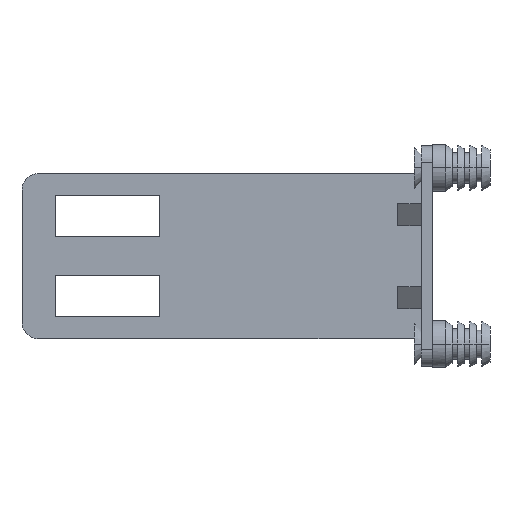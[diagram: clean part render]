
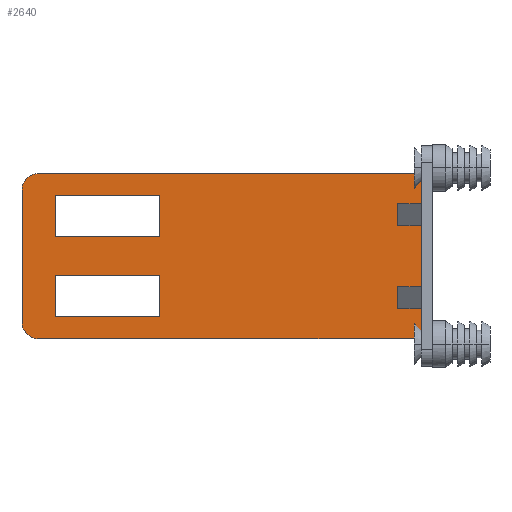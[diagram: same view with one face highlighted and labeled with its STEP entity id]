
A CAD part, top view. The second image highlights one B-rep face of the part: STEP entity #2640.
In plain terms, the highlighted planar face has unit normal (0, 0, 1).
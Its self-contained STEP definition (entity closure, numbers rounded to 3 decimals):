
#28 = EDGE_CURVE ( 'NONE', #2993, #825, #1139, .T. ) ;
#29 = EDGE_CURVE ( 'NONE', #2992, #2993, #1380, .T. ) ;
#30 = EDGE_CURVE ( 'NONE', #803, #2991, #1414, .T. ) ;
#32 = EDGE_CURVE ( 'NONE', #2991, #829, #1413, .T. ) ;
#33 = EDGE_CURVE ( 'NONE', #2990, #2989, #1417, .T. ) ;
#34 = EDGE_CURVE ( 'NONE', #828, #2992, #1411, .T. ) ;
#35 = EDGE_CURVE ( 'NONE', #2989, #39, #1421, .T. ) ;
#36 = EDGE_CURVE ( 'NONE', #40, #833, #1423, .T. ) ;
#39 = VERTEX_POINT ( 'NONE', #3127 ) ;
#40 = VERTEX_POINT ( 'NONE', #3135 ) ;
#96 = CARTESIAN_POINT ( 'NONE',  ( -74.5, 20., -25. ) ) ;
#97 = DIRECTION ( 'NONE',  ( 0., -1., 0. ) ) ;
#302 = FACE_BOUND ( 'NONE', #2933, .T. ) ;
#313 = FACE_BOUND ( 'NONE', #2945, .T. ) ;
#315 = FACE_OUTER_BOUND ( 'NONE', #2946, .T. ) ;
#456 = PLANE ( 'NONE',  #2337 ) ;
#457 = CARTESIAN_POINT ( 'NONE',  ( -74.5, 20., -25. ) ) ;
#458 = DIRECTION ( 'NONE',  ( 0., 0., -1. ) ) ;
#459 = DIRECTION ( 'NONE',  ( -1., 0., 0. ) ) ;
#631 = CARTESIAN_POINT ( 'NONE',  ( -71.5, 12., -25. ) ) ;
#653 = DIRECTION ( 'NONE',  ( 0., 0., 1. ) ) ;
#654 = DIRECTION ( 'NONE',  ( -1., 0., 0. ) ) ;
#655 = CARTESIAN_POINT ( 'NONE',  ( -79.885, 15., -25. ) ) ;
#656 = DIRECTION ( 'NONE',  ( 1., 0., 0. ) ) ;
#682 = CARTESIAN_POINT ( 'NONE',  ( -49.5, 3.5, -25. ) ) ;
#692 = CARTESIAN_POINT ( 'NONE',  ( -68.5, -3.5, -25. ) ) ;
#693 = DIRECTION ( 'NONE',  ( 0., -1., 0. ) ) ;
#694 = CARTESIAN_POINT ( 'NONE',  ( -49.5, -3.5, -25. ) ) ;
#695 = DIRECTION ( 'NONE',  ( 0., 1., 0. ) ) ;
#696 = CARTESIAN_POINT ( 'NONE',  ( -68.5, -11., -25. ) ) ;
#697 = DIRECTION ( 'NONE',  ( 1., 0., 0. ) ) ;
#698 = CARTESIAN_POINT ( 'NONE',  ( -68.5, 11., -25. ) ) ;
#700 = DIRECTION ( 'NONE',  ( 0., 1., 0. ) ) ;
#803 = VERTEX_POINT ( 'NONE', #1567 ) ;
#804 = VERTEX_POINT ( 'NONE', #1568 ) ;
#824 = VERTEX_POINT ( 'NONE', #1588 ) ;
#825 = VERTEX_POINT ( 'NONE', #1589 ) ;
#828 = VERTEX_POINT ( 'NONE', #1592 ) ;
#829 = VERTEX_POINT ( 'NONE', #1593 ) ;
#831 = VERTEX_POINT ( 'NONE', #1595 ) ;
#832 = VERTEX_POINT ( 'NONE', #1596 ) ;
#833 = VERTEX_POINT ( 'NONE', #1597 ) ;
#838 = LINE ( 'NONE', #655, #849 ) ;
#849 = VECTOR ( 'NONE', #656, 1000. ) ;
#853 = CIRCLE ( 'NONE', #981, 3. ) ;
#857 = LINE ( 'NONE', #682, #869 ) ;
#858 = LINE ( 'NONE', #698, #871 ) ;
#862 = LINE ( 'NONE', #692, #863 ) ;
#863 = VECTOR ( 'NONE', #693, 1000. ) ;
#865 = LINE ( 'NONE', #694, #866 ) ;
#866 = VECTOR ( 'NONE', #695, 1000. ) ;
#867 = LINE ( 'NONE', #696, #868 ) ;
#868 = VECTOR ( 'NONE', #697, 1000. ) ;
#869 = VECTOR ( 'NONE', #700, 1000. ) ;
#871 = VECTOR ( 'NONE', #2381, 1000. ) ;
#878 = LINE ( 'NONE', #2390, #879 ) ;
#879 = VECTOR ( 'NONE', #2391, 1000. ) ;
#913 = VECTOR ( 'NONE', #2473, 1000. ) ;
#929 = LINE ( 'NONE', #2472, #913 ) ;
#981 = AXIS2_PLACEMENT_3D ( 'NONE', #631, #653, #654 ) ;
#1139 = LINE ( 'NONE', #3111, #1409 ) ;
#1317 = EDGE_CURVE ( 'NONE', #804, #803, #2271, .T. ) ;
#1380 = LINE ( 'NONE', #3113, #1410 ) ;
#1409 = VECTOR ( 'NONE', #3115, 1000. ) ;
#1410 = VECTOR ( 'NONE', #3117, 1000. ) ;
#1411 = LINE ( 'NONE', #3122, #1419 ) ;
#1413 = LINE ( 'NONE', #3114, #1415 ) ;
#1414 = CIRCLE ( 'NONE', #1447, 3. ) ;
#1415 = VECTOR ( 'NONE', #3123, 1000. ) ;
#1417 = LINE ( 'NONE', #3125, #1418 ) ;
#1418 = VECTOR ( 'NONE', #3126, 1000. ) ;
#1419 = VECTOR ( 'NONE', #3128, 1000. ) ;
#1421 = LINE ( 'NONE', #3129, #1422 ) ;
#1422 = VECTOR ( 'NONE', #3130, 1000. ) ;
#1423 = LINE ( 'NONE', #3132, #1424 ) ;
#1424 = VECTOR ( 'NONE', #3133, 1000. ) ;
#1447 = AXIS2_PLACEMENT_3D ( 'NONE', #3116, #3118, #3119 ) ;
#1567 = CARTESIAN_POINT ( 'NONE',  ( -74.5, -12., -25. ) ) ;
#1568 = CARTESIAN_POINT ( 'NONE',  ( -74.5, 12., -25. ) ) ;
#1588 = CARTESIAN_POINT ( 'NONE',  ( -2., 15., -25. ) ) ;
#1589 = CARTESIAN_POINT ( 'NONE',  ( -2., -5.5, -25. ) ) ;
#1592 = CARTESIAN_POINT ( 'NONE',  ( -2., -9.5, -25. ) ) ;
#1593 = CARTESIAN_POINT ( 'NONE',  ( -2., -15., -25. ) ) ;
#1595 = CARTESIAN_POINT ( 'NONE',  ( -68.5, -11., -25. ) ) ;
#1596 = CARTESIAN_POINT ( 'NONE',  ( -49.5, -11., -25. ) ) ;
#1597 = CARTESIAN_POINT ( 'NONE',  ( -68.5, -3.5, -25. ) ) ;
#2271 = LINE ( 'NONE', #96, #2272 ) ;
#2272 = VECTOR ( 'NONE', #97, 1000. ) ;
#2337 = AXIS2_PLACEMENT_3D ( 'NONE', #457, #458, #459 ) ;
#2381 = DIRECTION ( 'NONE',  ( -1., 0., 0. ) ) ;
#2390 = CARTESIAN_POINT ( 'NONE',  ( -2., 20., -25. ) ) ;
#2391 = DIRECTION ( 'NONE',  ( 0., 1., 0. ) ) ;
#2472 = CARTESIAN_POINT ( 'NONE',  ( -2., 20., -25. ) ) ;
#2473 = DIRECTION ( 'NONE',  ( 0., 1., 0. ) ) ;
#2533 = CARTESIAN_POINT ( 'NONE',  ( -68.5, 11., -25. ) ) ;
#2536 = CARTESIAN_POINT ( 'NONE',  ( -6.243, -9.5, -25. ) ) ;
#2539 = CARTESIAN_POINT ( 'NONE',  ( -71.5, 15., -25. ) ) ;
#2540 = CARTESIAN_POINT ( 'NONE',  ( -49.5, 11., -25. ) ) ;
#2541 = CARTESIAN_POINT ( 'NONE',  ( -68.5, 3.5, -25. ) ) ;
#2542 = CARTESIAN_POINT ( 'NONE',  ( -71.5, -15., -25. ) ) ;
#2543 = CARTESIAN_POINT ( 'NONE',  ( -6.243, -5.5, -25. ) ) ;
#2640 = ADVANCED_FACE ( 'NONE', ( #302, #313, #315 ), #456, .F. ) ;
#2698 = EDGE_CURVE ( 'NONE', #2994, #804, #853, .T. ) ;
#2699 = EDGE_CURVE ( 'NONE', #2994, #824, #838, .T. ) ;
#2708 = EDGE_CURVE ( 'NONE', #833, #831, #862, .T. ) ;
#2709 = EDGE_CURVE ( 'NONE', #832, #40, #865, .T. ) ;
#2710 = EDGE_CURVE ( 'NONE', #831, #832, #867, .T. ) ;
#2711 = EDGE_CURVE ( 'NONE', #39, #2988, #857, .T. ) ;
#2712 = EDGE_CURVE ( 'NONE', #2988, #2990, #858, .T. ) ;
#2717 = EDGE_CURVE ( 'NONE', #829, #828, #878, .T. ) ;
#2754 = EDGE_CURVE ( 'NONE', #825, #824, #929, .T. ) ;
#2933 = EDGE_LOOP ( 'NONE', ( #2971, #2972, #2973, #2974 ) ) ;
#2945 = EDGE_LOOP ( 'NONE', ( #2975, #2976, #2977, #2978 ) ) ;
#2946 = EDGE_LOOP ( 'NONE', ( #2979, #2980, #2981, #2982, #2983, #2984, #2985, #2986, #2987, #3157 ) ) ;
#2971 = ORIENTED_EDGE ( 'NONE', *, *, #2710, .F. ) ;
#2972 = ORIENTED_EDGE ( 'NONE', *, *, #2708, .F. ) ;
#2973 = ORIENTED_EDGE ( 'NONE', *, *, #36, .F. ) ;
#2974 = ORIENTED_EDGE ( 'NONE', *, *, #2709, .F. ) ;
#2975 = ORIENTED_EDGE ( 'NONE', *, *, #2711, .F. ) ;
#2976 = ORIENTED_EDGE ( 'NONE', *, *, #35, .F. ) ;
#2977 = ORIENTED_EDGE ( 'NONE', *, *, #33, .F. ) ;
#2978 = ORIENTED_EDGE ( 'NONE', *, *, #2712, .F. ) ;
#2979 = ORIENTED_EDGE ( 'NONE', *, *, #1317, .T. ) ;
#2980 = ORIENTED_EDGE ( 'NONE', *, *, #30, .T. ) ;
#2981 = ORIENTED_EDGE ( 'NONE', *, *, #32, .T. ) ;
#2982 = ORIENTED_EDGE ( 'NONE', *, *, #2717, .T. ) ;
#2983 = ORIENTED_EDGE ( 'NONE', *, *, #34, .T. ) ;
#2984 = ORIENTED_EDGE ( 'NONE', *, *, #29, .T. ) ;
#2985 = ORIENTED_EDGE ( 'NONE', *, *, #28, .T. ) ;
#2986 = ORIENTED_EDGE ( 'NONE', *, *, #2754, .T. ) ;
#2987 = ORIENTED_EDGE ( 'NONE', *, *, #2699, .F. ) ;
#2988 = VERTEX_POINT ( 'NONE', #2540 ) ;
#2989 = VERTEX_POINT ( 'NONE', #2541 ) ;
#2990 = VERTEX_POINT ( 'NONE', #2533 ) ;
#2991 = VERTEX_POINT ( 'NONE', #2542 ) ;
#2992 = VERTEX_POINT ( 'NONE', #2536 ) ;
#2993 = VERTEX_POINT ( 'NONE', #2543 ) ;
#2994 = VERTEX_POINT ( 'NONE', #2539 ) ;
#3111 = CARTESIAN_POINT ( 'NONE',  ( -500004., -5.5, -25. ) ) ;
#3113 = CARTESIAN_POINT ( 'NONE',  ( -6.243, -5.5, -25. ) ) ;
#3114 = CARTESIAN_POINT ( 'NONE',  ( -79.885, -15., -25. ) ) ;
#3115 = DIRECTION ( 'NONE',  ( 1., 0., 0. ) ) ;
#3116 = CARTESIAN_POINT ( 'NONE',  ( -71.5, -12., -25. ) ) ;
#3117 = DIRECTION ( 'NONE',  ( 0., 1., 0. ) ) ;
#3118 = DIRECTION ( 'NONE',  ( 0., 0., 1. ) ) ;
#3119 = DIRECTION ( 'NONE',  ( -1., 0., 0. ) ) ;
#3122 = CARTESIAN_POINT ( 'NONE',  ( -500004., -9.5, -25. ) ) ;
#3123 = DIRECTION ( 'NONE',  ( 1., 0., 0. ) ) ;
#3125 = CARTESIAN_POINT ( 'NONE',  ( -68.5, 3.5, -25. ) ) ;
#3126 = DIRECTION ( 'NONE',  ( 0., -1., 0. ) ) ;
#3127 = CARTESIAN_POINT ( 'NONE',  ( -49.5, 3.5, -25. ) ) ;
#3128 = DIRECTION ( 'NONE',  ( -1., 0., 0. ) ) ;
#3129 = CARTESIAN_POINT ( 'NONE',  ( -68.5, 3.5, -25. ) ) ;
#3130 = DIRECTION ( 'NONE',  ( 1., 0., 0. ) ) ;
#3132 = CARTESIAN_POINT ( 'NONE',  ( -68.5, -3.5, -25. ) ) ;
#3133 = DIRECTION ( 'NONE',  ( -1., 0., 0. ) ) ;
#3135 = CARTESIAN_POINT ( 'NONE',  ( -49.5, -3.5, -25. ) ) ;
#3157 = ORIENTED_EDGE ( 'NONE', *, *, #2698, .T. ) ;
